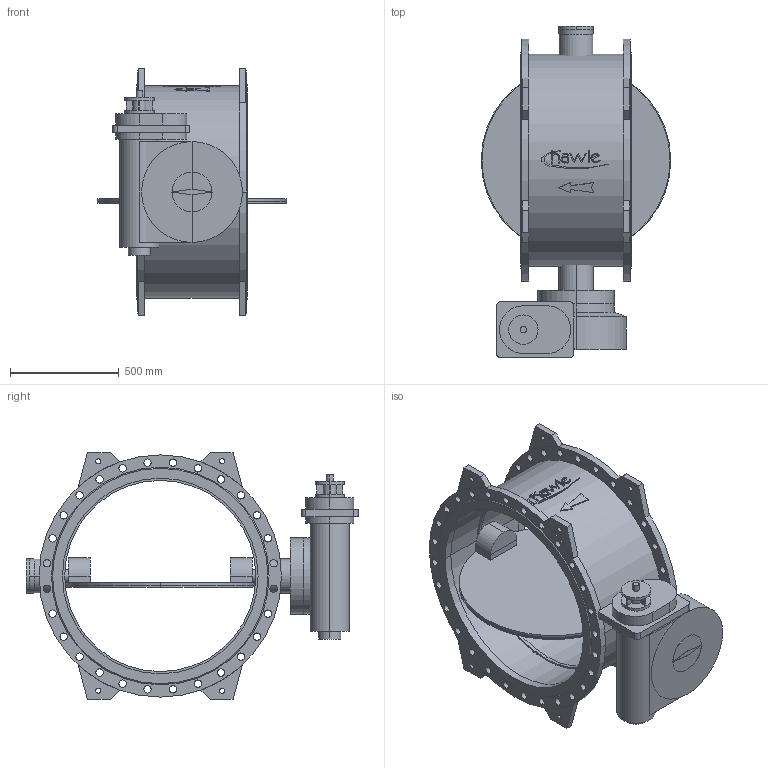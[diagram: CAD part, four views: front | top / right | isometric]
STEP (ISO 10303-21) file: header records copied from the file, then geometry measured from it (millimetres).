
FILE_DESCRIPTION(('STEP AP214'),'1');
FILE_NAME('S:/EK/USER/CAT6/3DHomepage_27-04-2012/neu_08-01-2013/9881K/9881K_PN10_DN900.STP','2013-03-11T15:19:52',(' '),(' '),'Spatial InterOp 3D',' ',' ');
FILE_SCHEMA(('automotive_design'));
Length unit declared in the file: millimetre
Products named in the file (52): 3D-Objekt
Bounding box: 872 x 1528 x 1136 mm (x, y, z)
Volume: 172337145.2 mm3; surface area: 9980703.5 mm2
Topology: 52 solids, 52 shells, 465 faces, 1074 edges, 716 vertices
Faces by surface type: cylinder 243, plane 214, cone 8
Entity records: 18588 total; most frequent: DIRECTION 2610, CARTESIAN_POINT 2307, ORIENTED_EDGE 2148, EDGE_CURVE 1074, AXIS2_PLACEMENT_3D 1019, VERTEX_POINT 716, EDGE_LOOP 608, LINE 572
